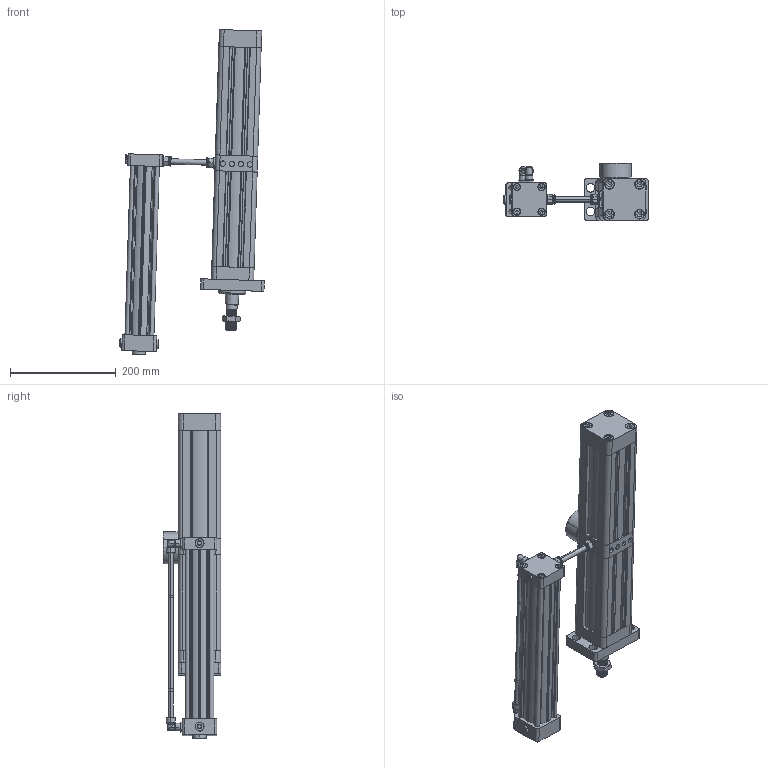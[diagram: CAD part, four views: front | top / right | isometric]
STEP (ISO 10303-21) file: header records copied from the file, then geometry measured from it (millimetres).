
FILE_DESCRIPTION(('CATIA V5 STEP Exchange'),'2;1');
FILE_NAME('D:\stp file for catalog\PHP-STP\PHPV-63.stp','2018-04-21T05:51:24+00:00',('none'),('none'),'CATIA Version 5-6 Release 2016','CATIA V5 STEP AP203','none');
FILE_SCHEMA(('CONFIG_CONTROL_DESIGN'));
Products named in the file (2): Cylinder; prssure
Assembly tree (44 placements, depth 3):
  Cylinder
    #57
    #689
    #996
    #4193
    #4911
    #8108
    #8684
    #9483
    #12989
    prssure
      #13786
      #14098
      #14202
      #133208
      #250198
      #250221
      #250583
      #250687
      #250862
      #251232
      #252125
    #253031
    #253135
    #254013
    #254891
    #255769
    #256647
    #263928
    #264842
    #265756
    #266670
    #267584
    #268128  x2
    #268310  x2
    #269199  x3
    #269729
    #269946
    #270756
    #271068
    #274319
Bounding box: 273.13 x 108.5 x 614.13 mm (x, y, z)
Volume: 1986282.4 mm3; surface area: 719774.3 mm2
Topology: 93 solids, 93 shells, 8573 faces, 24727 edges, 16428 vertices
Faces by surface type: plane 7551, cylinder 741, bspline 117, cone 100, torus 52, revolution 12
Entity records: 277614 total; most frequent: CARTESIAN_POINT 56456, ORIENTED_EDGE 49140, DIRECTION 39869, EDGE_CURVE 24570, VECTOR 22508, LINE 22508, VERTEX_POINT 16325, AXIS2_PLACEMENT_3D 9424
